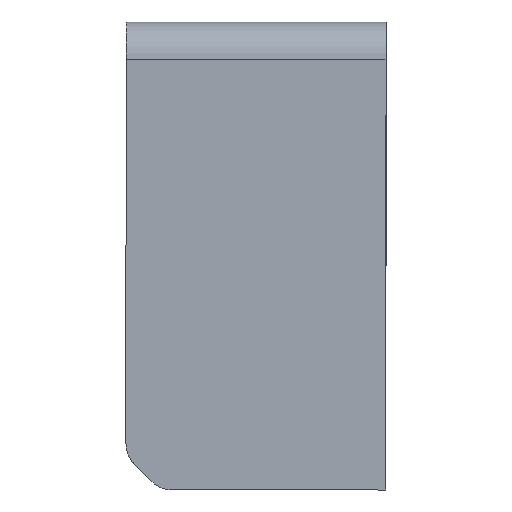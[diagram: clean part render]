
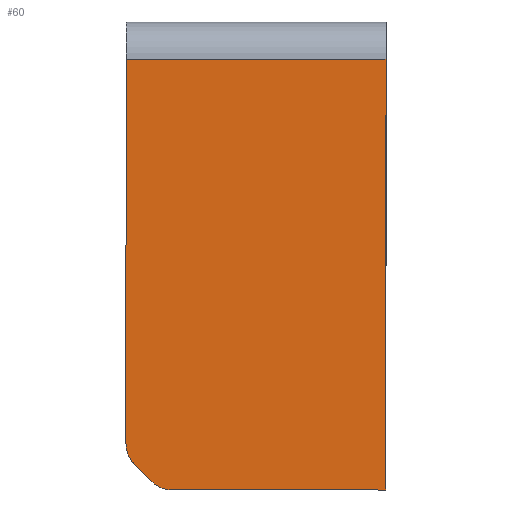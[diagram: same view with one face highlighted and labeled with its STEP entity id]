
A CAD part, left-side view. The second image highlights one B-rep face of the part: STEP entity #60.
In plain terms, the highlighted planar face has unit normal (-1, 0, 0).
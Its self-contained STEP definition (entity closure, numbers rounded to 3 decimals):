
#8 = EDGE_CURVE ( 'NONE', #442, #448, #251, .T. ) ;
#24 = EDGE_CURVE ( 'NONE', #445, #460, #229, .T. ) ;
#35 = EDGE_CURVE ( 'NONE', #460, #441, #375, .T. ) ;
#45 = EDGE_CURVE ( 'NONE', #448, #449, #410, .T. ) ;
#48 = EDGE_CURVE ( 'NONE', #445, #442, #411, .T. ) ;
#60 = ADVANCED_FACE ( 'NONE', ( #338 ), #645, .F. ) ;
#83 = EDGE_CURVE ( 'NONE', #441, #447, #156, .T. ) ;
#86 = EDGE_CURVE ( 'NONE', #447, #449, #158, .T. ) ;
#113 = AXIS2_PLACEMENT_3D ( 'NONE', #626, #617, #616 ) ;
#114 = AXIS2_PLACEMENT_3D ( 'NONE', #536, #534, #533 ) ;
#136 = AXIS2_PLACEMENT_3D ( 'NONE', #709, #707, #706 ) ;
#154 = VECTOR ( 'NONE', #526, 1000. ) ;
#156 = CIRCLE ( 'NONE', #114, 3. ) ;
#158 = LINE ( 'NONE', #535, #154 ) ;
#196 = ORIENTED_EDGE ( 'NONE', *, *, #24, .F. ) ;
#202 = ORIENTED_EDGE ( 'NONE', *, *, #83, .F. ) ;
#223 = ORIENTED_EDGE ( 'NONE', *, *, #45, .T. ) ;
#229 = CIRCLE ( 'NONE', #136, 3. ) ;
#241 = ORIENTED_EDGE ( 'NONE', *, *, #35, .F. ) ;
#243 = VECTOR ( 'NONE', #682, 1000. ) ;
#244 = ORIENTED_EDGE ( 'NONE', *, *, #8, .T. ) ;
#251 = LINE ( 'NONE', #741, #302 ) ;
#258 = ORIENTED_EDGE ( 'NONE', *, *, #86, .F. ) ;
#302 = VECTOR ( 'NONE', #466, 1000. ) ;
#333 = EDGE_LOOP ( 'NONE', ( #244, #223, #258, #202, #241, #196, #334 ) ) ;
#334 = ORIENTED_EDGE ( 'NONE', *, *, #48, .T. ) ;
#338 = FACE_OUTER_BOUND ( 'NONE', #333, .T. ) ;
#375 = LINE ( 'NONE', #683, #243 ) ;
#410 = LINE ( 'NONE', #679, #413 ) ;
#411 = LINE ( 'NONE', #652, #418 ) ;
#413 = VECTOR ( 'NONE', #660, 1000. ) ;
#418 = VECTOR ( 'NONE', #650, 1000. ) ;
#441 = VERTEX_POINT ( 'NONE', #749 ) ;
#442 = VERTEX_POINT ( 'NONE', #753 ) ;
#445 = VERTEX_POINT ( 'NONE', #754 ) ;
#447 = VERTEX_POINT ( 'NONE', #755 ) ;
#448 = VERTEX_POINT ( 'NONE', #464 ) ;
#449 = VERTEX_POINT ( 'NONE', #756 ) ;
#460 = VERTEX_POINT ( 'NONE', #765 ) ;
#464 = CARTESIAN_POINT ( 'NONE',  ( -7., 0., 11.4 ) ) ;
#466 = DIRECTION ( 'NONE',  ( 0., 0., 1. ) ) ;
#526 = DIRECTION ( 'NONE',  ( 0., 0., 1. ) ) ;
#533 = DIRECTION ( 'NONE',  ( 0., 1., 0. ) ) ;
#534 = DIRECTION ( 'NONE',  ( 1., 0., 0. ) ) ;
#535 = CARTESIAN_POINT ( 'NONE',  ( -7., 25., -30. ) ) ;
#536 = CARTESIAN_POINT ( 'NONE',  ( -7., 22., -25.5 ) ) ;
#616 = DIRECTION ( 'NONE',  ( 0., 1., 0. ) ) ;
#617 = DIRECTION ( 'NONE',  ( 1., 0., 0. ) ) ;
#626 = CARTESIAN_POINT ( 'NONE',  ( -7., 25., -30. ) ) ;
#645 = PLANE ( 'NONE',  #113 ) ;
#650 = DIRECTION ( 'NONE',  ( 0., -1., 0. ) ) ;
#652 = CARTESIAN_POINT ( 'NONE',  ( -7., 25., -30. ) ) ;
#660 = DIRECTION ( 'NONE',  ( 0., 1., 0. ) ) ;
#679 = CARTESIAN_POINT ( 'NONE',  ( -7., 25., 11.4 ) ) ;
#682 = DIRECTION ( 'NONE',  ( 0., 0.707, 0.707 ) ) ;
#683 = CARTESIAN_POINT ( 'NONE',  ( -7., 22.621, -29.121 ) ) ;
#706 = DIRECTION ( 'NONE',  ( 0., 1., 0. ) ) ;
#707 = DIRECTION ( 'NONE',  ( 1., 0., 0. ) ) ;
#709 = CARTESIAN_POINT ( 'NONE',  ( -7., 20.5, -27. ) ) ;
#741 = CARTESIAN_POINT ( 'NONE',  ( -7., 0., -30. ) ) ;
#749 = CARTESIAN_POINT ( 'NONE',  ( -7., 24.121, -27.621 ) ) ;
#753 = CARTESIAN_POINT ( 'NONE',  ( -7., 0., -30. ) ) ;
#754 = CARTESIAN_POINT ( 'NONE',  ( -7., 20.5, -30. ) ) ;
#755 = CARTESIAN_POINT ( 'NONE',  ( -7., 25., -25.5 ) ) ;
#756 = CARTESIAN_POINT ( 'NONE',  ( -7., 25., 11.4 ) ) ;
#765 = CARTESIAN_POINT ( 'NONE',  ( -7., 22.621, -29.121 ) ) ;
